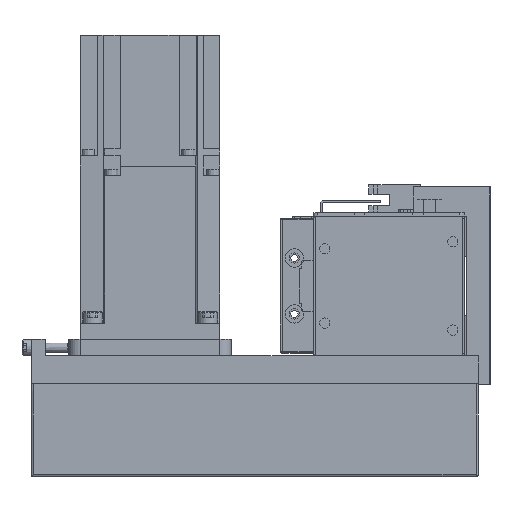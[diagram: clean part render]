
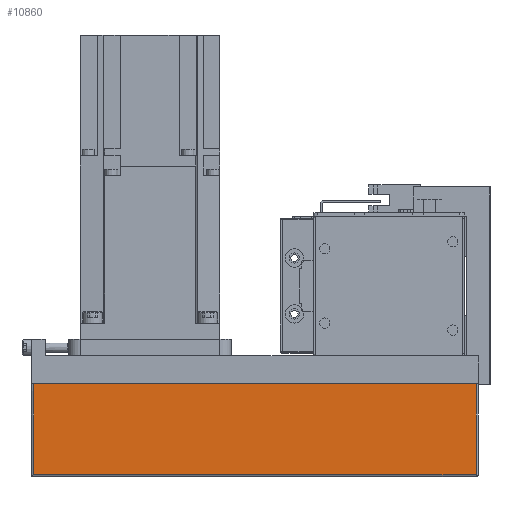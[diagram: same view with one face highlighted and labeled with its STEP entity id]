
A CAD part, left-side view. The second image highlights one B-rep face of the part: STEP entity #10860.
In plain terms, the highlighted planar face has unit normal (-1, 0, 0).
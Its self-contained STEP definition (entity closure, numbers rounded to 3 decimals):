
#2542=ORIENTED_EDGE('',*,*,#4611,.T.);
#2543=ORIENTED_EDGE('',*,*,#4612,.T.);
#2544=ORIENTED_EDGE('',*,*,#4613,.F.);
#2545=ORIENTED_EDGE('',*,*,#4614,.T.);
#4611=EDGE_CURVE('',#5834,#5835,#6874,.T.);
#4612=EDGE_CURVE('',#5835,#5836,#6875,.T.);
#4613=EDGE_CURVE('',#5837,#5836,#6876,.T.);
#4614=EDGE_CURVE('',#5837,#5834,#6877,.T.);
#5834=VERTEX_POINT('',#17450);
#5835=VERTEX_POINT('',#17451);
#5836=VERTEX_POINT('',#17453);
#5837=VERTEX_POINT('',#17455);
#6874=LINE('',#17449,#7922);
#6875=LINE('',#17452,#7923);
#6876=LINE('',#17454,#7924);
#6877=LINE('',#17456,#7925);
#7922=VECTOR('',#14255,1000.);
#7923=VECTOR('',#14256,1000.);
#7924=VECTOR('',#14257,1000.);
#7925=VECTOR('',#14258,1000.);
#8908=EDGE_LOOP('',(#2542,#2543,#2544,#2545));
#9782=FACE_BOUND('',#8908,.T.);
#10330=PLANE('',#11848);
#10860=ADVANCED_FACE('',(#9782),#10330,.T.);
#11848=AXIS2_PLACEMENT_3D('',#17448,#14253,#14254);
#14253=DIRECTION('',(-1.,0.,0.));
#14254=DIRECTION('',(0.,0.,1.));
#14255=DIRECTION('',(0.,0.,1.));
#14256=DIRECTION('',(0.,1.,0.));
#14257=DIRECTION('',(0.,0.,1.));
#14258=DIRECTION('',(0.,-1.,0.));
#17448=CARTESIAN_POINT('',(-40.,151.,-52.));
#17449=CARTESIAN_POINT('',(-40.,-40.,-64.));
#17450=CARTESIAN_POINT('',(-40.,-40.,-51.));
#17451=CARTESIAN_POINT('',(-40.,-40.,-12.01));
#17452=CARTESIAN_POINT('',(-40.,151.,-12.01));
#17453=CARTESIAN_POINT('',(-40.,150.,-12.01));
#17454=CARTESIAN_POINT('',(-40.,150.,-64.));
#17455=CARTESIAN_POINT('',(-40.,150.,-51.));
#17456=CARTESIAN_POINT('',(-40.,200.,-51.));
